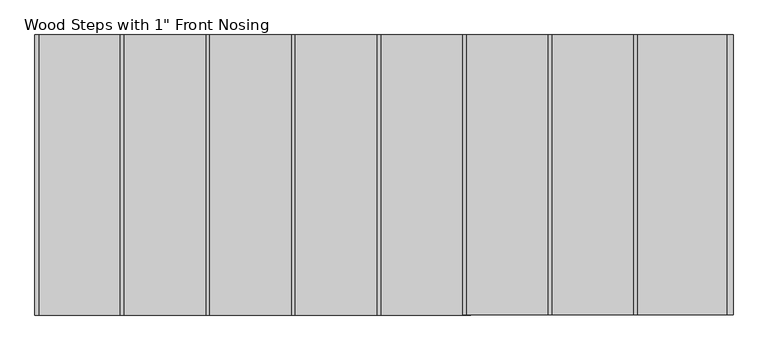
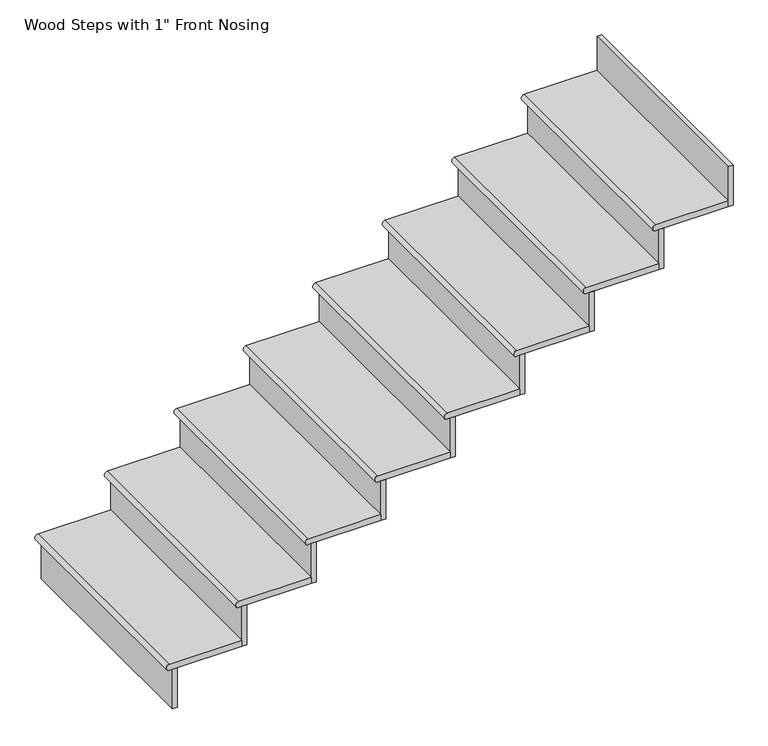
"""IFC4 building model written with IfcOpenShell, lengths in millimetres: stair flight geometry."""

from ifc_helpers import new_model, si_unit, point, frame, frame_2d, origin, place, context, project, spatial, polyline, circle_curve, trimmed, segment, composite_curve, outline, extrude, source, transform, mapped, element, save


def stair_flight_db0cfb7a(model_context):
    return source(origin(), model_context, "Body", "SweptSolid", [
        extrude(outline(composite_curve([segment(polyline([(1693.3333333, 8638.883999), (1693.3333333, 8346.783999)]), True, "CONTINUOUS"), segment(trimmed(circle_curve(frame_2d((1680.6333333, 8346.783999)), 12.7), [point((1693.3333333, 8346.783999))], [point((1667.9333333, 8346.783999))], False, "CARTESIAN"), True, "CONTINUOUS"), segment(polyline([(1667.9333333, 8346.783999), (1667.9333333, 8638.883999), (1693.3333333, 8638.883999)]), True, "CONTINUOUS")], self_intersect=False)), frame((0.0, -5051.4417963, 0.0), z_axis=(0.0, 1.0, 0.0), x_axis=(0.0, 0.0, 1.0)), (0.0, 0.0, 1.0), 914.4),
        extrude(outline(polyline([(8378.533999, -5051.4417963), (8359.483999, -5051.4417963), (8359.483999, -4137.0417963), (8378.533999, -4137.0417963), (8378.533999, -5051.4417963)])), frame((0.0, 0.0, 1498.6), z_axis=(0.0, 0.0, 1.0), x_axis=(1.0, 0.0, 0.0)), (0.0, 0.0, 1.0), 169.3333333),
        extrude(outline(polyline([(8657.933999, -5051.4417963), (8638.883999, -5051.4417963), (8638.883999, -4137.0417963), (8657.933999, -4137.0417963), (8657.933999, -5051.4417963)])), frame((0.0, 0.0, 1667.9333333), z_axis=(0.0, 0.0, 1.0), x_axis=(1.0, 0.0, 0.0)), (0.0, 0.0, 1.0), 169.3333333),
        extrude(outline(composite_curve([segment(polyline([(1862.6666667, 8918.283999), (1862.6666667, 8626.183999)]), True, "CONTINUOUS"), segment(trimmed(circle_curve(frame_2d((1849.9666667, 8626.183999)), 12.7), [point((1862.6666667, 8626.183999))], [point((1837.2666667, 8626.183999))], False, "CARTESIAN"), True, "CONTINUOUS"), segment(polyline([(1837.2666667, 8626.183999), (1837.2666667, 8918.283999), (1862.6666667, 8918.283999)]), True, "CONTINUOUS")], self_intersect=False)), frame((0.0, -5051.4417963, 0.0), z_axis=(0.0, 1.0, 0.0), x_axis=(0.0, 0.0, 1.0)), (0.0, 0.0, 1.0), 914.4),
        extrude(outline(polyline([(8937.333999, -5051.4417963), (8918.283999, -5051.4417963), (8918.283999, -4137.0417963), (8937.333999, -4137.0417963), (8937.333999, -5051.4417963)])), frame((0.0, 0.0, 1837.2666667), z_axis=(0.0, 0.0, 1.0), x_axis=(1.0, 0.0, 0.0)), (0.0, 0.0, 1.0), 169.3333333),
        extrude(outline(composite_curve([segment(polyline([(2032.0, 9197.683999), (2032.0, 8905.583999)]), True, "CONTINUOUS"), segment(trimmed(circle_curve(frame_2d((2019.3, 8905.583999)), 12.7), [point((2032.0, 8905.583999))], [point((2006.6, 8905.583999))], False, "CARTESIAN"), True, "CONTINUOUS"), segment(polyline([(2006.6, 8905.583999), (2006.6, 9197.683999), (2032.0, 9197.683999)]), True, "CONTINUOUS")], self_intersect=False)), frame((0.0, -5051.4417963, 0.0), z_axis=(0.0, 1.0, 0.0), x_axis=(0.0, 0.0, 1.0)), (0.0, 0.0, 1.0), 914.4),
        extrude(outline(polyline([(9216.733999, -5051.4417963), (9197.683999, -5051.4417963), (9197.683999, -4137.0417963), (9216.733999, -4137.0417963), (9216.733999, -5051.4417963)])), frame((0.0, 0.0, 2006.6), z_axis=(0.0, 0.0, 1.0), x_axis=(1.0, 0.0, 0.0)), (0.0, 0.0, 1.0), 169.3333333),
        extrude(outline(composite_curve([segment(polyline([(2201.3333333, 9477.083999), (2201.3333333, 9184.983999)]), True, "CONTINUOUS"), segment(trimmed(circle_curve(frame_2d((2188.6333333, 9184.983999)), 12.7), [point((2201.3333333, 9184.983999))], [point((2175.9333333, 9184.983999))], False, "CARTESIAN"), True, "CONTINUOUS"), segment(polyline([(2175.9333333, 9184.983999), (2175.9333333, 9477.083999), (2201.3333333, 9477.083999)]), True, "CONTINUOUS")], self_intersect=False)), frame((0.0, -5051.4417963, 0.0), z_axis=(0.0, 1.0, 0.0), x_axis=(0.0, 0.0, 1.0)), (0.0, 0.0, 1.0), 914.4),
        extrude(outline(polyline([(9496.133999, -5051.4417963), (9477.083999, -5051.4417963), (9477.083999, -4137.0417963), (9496.133999, -4137.0417963), (9496.133999, -5051.4417963)])), frame((0.0, 0.0, 2175.9333333), z_axis=(0.0, 0.0, 1.0), x_axis=(1.0, 0.0, 0.0)), (0.0, 0.0, 1.0), 169.3333333),
        extrude(outline(composite_curve([segment(polyline([(2370.6666667, 9756.483999), (2370.6666667, 9464.383999)]), True, "CONTINUOUS"), segment(trimmed(circle_curve(frame_2d((2357.9666667, 9464.383999)), 12.7), [point((2370.6666667, 9464.383999))], [point((2345.2666667, 9464.383999))], False, "CARTESIAN"), True, "CONTINUOUS"), segment(polyline([(2345.2666667, 9464.383999), (2345.2666667, 9756.483999), (2370.6666667, 9756.483999)]), True, "CONTINUOUS")], self_intersect=False)), frame((0.0, -5051.4417963, 0.0), z_axis=(0.0, 1.0, 0.0), x_axis=(0.0, 0.0, 1.0)), (0.0, 0.0, 1.0), 914.4),
        extrude(outline(polyline([(9775.533999, -5051.4417963), (9756.483999, -5051.4417963), (9756.483999, -4137.0417963), (9775.533999, -4137.0417963), (9775.533999, -5051.4417963)])), frame((0.0, 0.0, 2345.2666667), z_axis=(0.0, 0.0, 1.0), x_axis=(1.0, 0.0, 0.0)), (0.0, 0.0, 1.0), 169.3333333),
        extrude(outline(composite_curve([segment(polyline([(2540.0, 10035.883999), (2540.0, 9743.783999)]), True, "CONTINUOUS"), segment(trimmed(circle_curve(frame_2d((2527.3, 9743.783999)), 12.7), [point((2540.0, 9743.783999))], [point((2514.6, 9743.783999))], False, "CARTESIAN"), True, "CONTINUOUS"), segment(polyline([(2514.6, 9743.783999), (2514.6, 10035.883999), (2540.0, 10035.883999)]), True, "CONTINUOUS")], self_intersect=False)), frame((0.0, -5051.4417963, 0.0), z_axis=(0.0, 1.0, 0.0), x_axis=(0.0, 0.0, 1.0)), (0.0, 0.0, 1.0), 914.4),
        extrude(outline(polyline([(10054.933999, -5051.4417963), (10035.883999, -5051.4417963), (10035.883999, -4137.0417963), (10054.933999, -4137.0417963), (10054.933999, -5051.4417963)])), frame((0.0, 0.0, 2514.6), z_axis=(0.0, 0.0, 1.0), x_axis=(1.0, 0.0, 0.0)), (0.0, 0.0, 1.0), 169.3333333),
        extrude(outline(composite_curve([segment(polyline([(2709.3333333, 10315.283999), (2709.3333333, 10023.183999)]), True, "CONTINUOUS"), segment(trimmed(circle_curve(frame_2d((2696.6333333, 10023.183999)), 12.7), [point((2709.3333333, 10023.183999))], [point((2683.9333333, 10023.183999))], False, "CARTESIAN"), True, "CONTINUOUS"), segment(polyline([(2683.9333333, 10023.183999), (2683.9333333, 10315.283999), (2709.3333333, 10315.283999)]), True, "CONTINUOUS")], self_intersect=False)), frame((0.0, -5051.4417963, 0.0), z_axis=(0.0, 1.0, 0.0), x_axis=(0.0, 0.0, 1.0)), (0.0, 0.0, 1.0), 914.4),
        extrude(outline(polyline([(10334.333999, -5051.4417963), (10315.283999, -5051.4417963), (10315.283999, -4137.0417963), (10334.333999, -4137.0417963), (10334.333999, -5051.4417963)])), frame((0.0, 0.0, 2683.9333333), z_axis=(0.0, 0.0, 1.0), x_axis=(1.0, 0.0, 0.0)), (0.0, 0.0, 1.0), 169.3333333),
        extrude(outline(polyline([(10613.733999, -5051.4417963), (10594.683999, -5051.4417963), (10594.683999, -4137.0417963), (10613.733999, -4137.0417963), (10613.733999, -5051.4417963)])), frame((0.0, 0.0, 2853.2666667), z_axis=(0.0, 0.0, 1.0), x_axis=(1.0, 0.0, 0.0)), (0.0, 0.0, 1.0), 169.3333333),
        extrude(outline(composite_curve([segment(polyline([(2878.6666667, 10594.683999), (2878.6666667, 10302.583999)]), True, "CONTINUOUS"), segment(trimmed(circle_curve(frame_2d((2865.9666667, 10302.583999)), 12.7), [point((2878.6666667, 10302.583999))], [point((2853.2666667, 10302.583999))], False, "CARTESIAN"), True, "CONTINUOUS"), segment(polyline([(2853.2666667, 10302.583999), (2853.2666667, 10594.683999), (2878.6666667, 10594.683999)]), True, "CONTINUOUS")], self_intersect=False)), frame((0.0, -5051.4417963, 0.0), z_axis=(0.0, 1.0, 0.0), x_axis=(0.0, 0.0, 1.0)), (0.0, 0.0, 1.0), 914.4),
    ])


if __name__ == "__main__":
    model = new_model("IFC4")
    model_context = context("Model", 3, world=origin())
    ifc_project = project(units=[si_unit("LENGTHUNIT", "METRE", prefix="MILLI")], contexts=[model_context])
    site = spatial("IfcSite", under=ifc_project)
    building = spatial("IfcBuilding", under=site)
    placement = place(None, origin())
    stair_flight_shape = stair_flight_db0cfb7a(model_context)
    element("IfcStairFlight", 1, ObjectType="Wood Steps with 1\" Front Nosing", at=placement, inside=building, context=model_context, shape_type="MappedRepresentation", body=[
        mapped(stair_flight_shape, transform((0.0, 0.0, 0.0), x_axis=(1.0, 0.0, 0.0), y_axis=(0.0, 1.0, 0.0), z_axis=(0.0, 0.0, 1.0))),
    ])
    save(model, "model.ifc")
